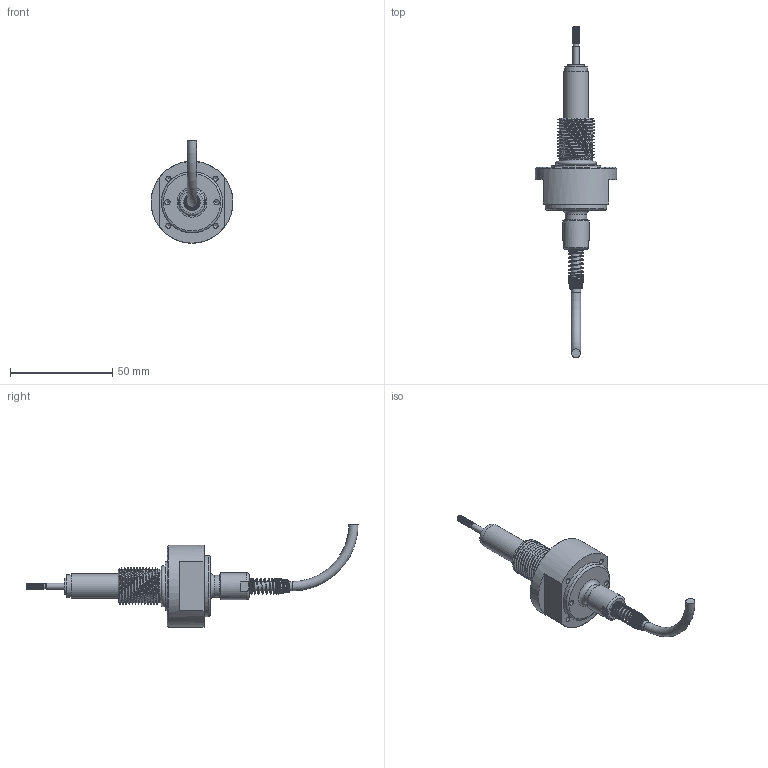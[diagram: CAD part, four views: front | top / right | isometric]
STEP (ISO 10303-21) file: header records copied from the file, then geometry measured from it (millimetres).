
FILE_DESCRIPTION( ( 'STEP AP203' ), '1' );
FILE_NAME( 'N:/Engineering/CAD_Solid/LVDT/HYD/Kunden-3D-Modell/SM2-HYD-18-K.stp', '2011-12-14T13:22:14', ( ' ' ), ( ' ' ), 'XStep 1.0', ' ', ' ' );
FILE_SCHEMA( ( 'CONFIG_CONTROL_DESIGN) ( )' ) );
Length unit declared in the file: metre
Products named in the file (12): 1; 2; 3; 4; 5; 6; 7; 8; 9; 10; 11; 12
Bounding box: 40 x 162.25 x 50 mm (x, y, z)
Volume: 1245.2 mm3; surface area: 14403.3 mm2
Topology: 2 solids, 78 shells, 82 faces, 300 edges, 248 vertices
Faces by surface type: cylinder 24, plane 24, cone 17, bspline 12, torus 5
Full cylindrical faces by diameter (mm): 2.5 x5, 2.6 x2, 3 x1, 4 x1, 4.5 x1, 6 x1, 8 x1, 8.2 x1, 10.6 x1, 10.917 x1, 11 x1, 12 x1, 13 x1, 15.8 x1, 24 x1, 30 x1, 40 x1
Entity records: 18690 total; most frequent: CARTESIAN_POINT 16154, DIRECTION 470, ORIENTED_EDGE 223, AXIS2_PLACEMENT_3D 221, EDGE_CURVE 220, VERTEX_POINT 220, CIRCLE 140, EDGE_LOOP 137
